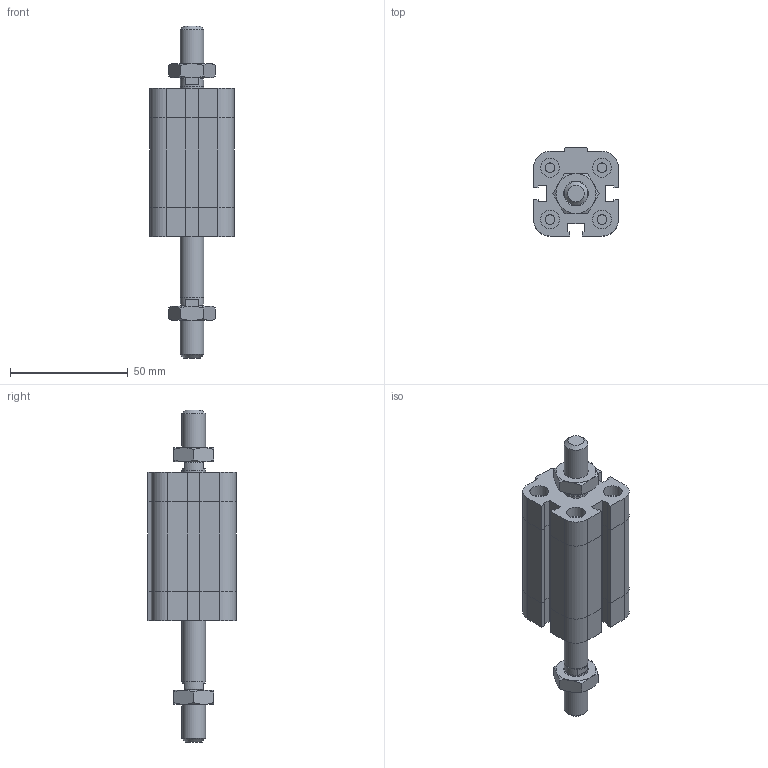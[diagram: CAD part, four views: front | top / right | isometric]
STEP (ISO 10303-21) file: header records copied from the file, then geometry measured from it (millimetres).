
FILE_DESCRIPTION((''),'2;1');
FILE_NAME('I:\Area Tecnica\Disegni\VARIE-3D\Componenti\EUROPE\15##_###_####_04_#\1581_20_0025_04_1.iam.stp','2009-04-20T14:49:50',(''),(''),'Autodesk Inventor 2009','Autodesk Inventor 2009','');
FILE_SCHEMA(('AUTOMOTIVE_DESIGN { 1 0 10303 214 1 1 1 1 }'));
Length unit declared in the file: millimetre
Products named in the file (4): 1581_20_0025_04_1; 1581_20_0025_03_1_C; 1561_20_0025_04_1_S; DBFM10
Assembly tree (4 placements, depth 2):
  1581_20_0025_04_1
    1581_20_0025_03_1_C
    1561_20_0025_04_1_S
    DBFM10  x2
Bounding box: 36 x 37.5 x 141 mm (x, y, z)
Volume: 78091.2 mm3; surface area: 24183.7 mm2
Topology: 4 solids, 4 shells, 222 faces, 483 edges, 289 vertices
Faces by surface type: plane 129, cone 35, bspline 33, cylinder 25
Full cylindrical faces by diameter (mm): 4.134 x4, 7.9 x1, 8 x4, 9.8 x2, 10 x2
Entity records: 5450 total; most frequent: CARTESIAN_POINT 1222, DIRECTION 802, ORIENTED_EDGE 772, EDGE_CURVE 386, AXIS2_PLACEMENT_3D 272, EDGE_LOOP 258, VECTOR 258, LINE 258
